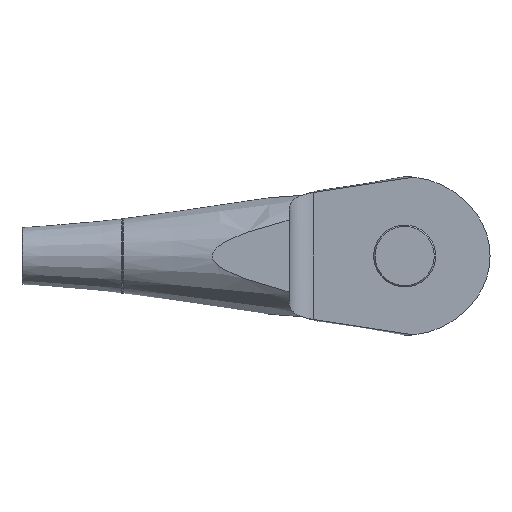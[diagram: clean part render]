
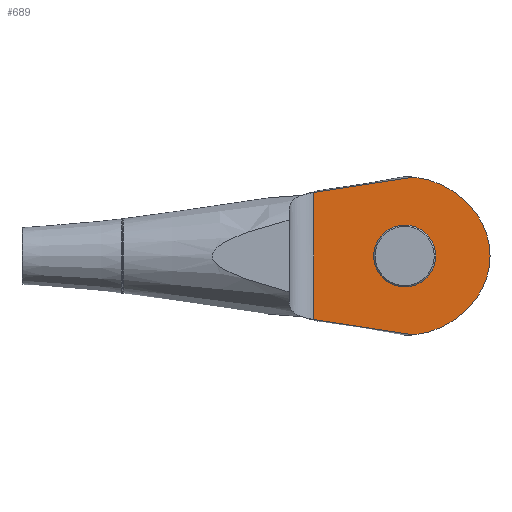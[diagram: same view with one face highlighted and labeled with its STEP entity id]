
A CAD part, front view. The second image highlights one B-rep face of the part: STEP entity #689.
In plain terms, the highlighted planar face has unit normal (0, -1, 0).
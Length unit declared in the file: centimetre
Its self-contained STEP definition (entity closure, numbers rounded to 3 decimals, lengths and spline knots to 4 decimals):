
#23=LINE('',#1227,#43);
#43=VECTOR('',#899,9.2219);
#65=(
BOUNDED_CURVE()
B_SPLINE_CURVE(2,(#1062,#1063,#1064),.UNSPECIFIED.,.F.,.F.)
B_SPLINE_CURVE_WITH_KNOTS((3,3),(0.,7.9073),.UNSPECIFIED.)
CURVE()
GEOMETRIC_REPRESENTATION_ITEM()
RATIONAL_B_SPLINE_CURVE((1.,1.009,1.007))
REPRESENTATION_ITEM('')
);
#69=(
BOUNDED_CURVE()
B_SPLINE_CURVE(2,(#1172,#1173,#1174),.UNSPECIFIED.,.F.,.F.)
B_SPLINE_CURVE_WITH_KNOTS((3,3),(5.0421,12.9494),
 .UNSPECIFIED.)
CURVE()
GEOMETRIC_REPRESENTATION_ITEM()
RATIONAL_B_SPLINE_CURVE((1.007,1.009,1.))
REPRESENTATION_ITEM('')
);
#99=PLANE('',#762);
#123=FACE_BOUND('',#220,.T.);
#160=FACE_OUTER_BOUND('',#219,.T.);
#219=EDGE_LOOP('',(#519,#520,#521,#522,#523,#524));
#220=EDGE_LOOP('',(#525));
#282=CIRCLE('',#751,1.95);
#283=CIRCLE('',#753,6.4052);
#285=CIRCLE('',#756,5.3);
#287=CIRCLE('',#759,6.4052);
#319=VERTEX_POINT('',#1042);
#320=VERTEX_POINT('',#1061);
#331=VERTEX_POINT('',#1158);
#332=VERTEX_POINT('',#1171);
#335=VERTEX_POINT('',#1207);
#336=VERTEX_POINT('',#1210);
#338=VERTEX_POINT('',#1216);
#382=EDGE_CURVE('',#319,#320,#65,.T.);
#394=EDGE_CURVE('',#331,#332,#69,.T.);
#402=EDGE_CURVE('',#335,#335,#282,.T.);
#403=EDGE_CURVE('',#336,#320,#283,.T.);
#406=EDGE_CURVE('',#338,#336,#285,.T.);
#409=EDGE_CURVE('',#331,#338,#287,.T.);
#412=EDGE_CURVE('',#319,#332,#23,.T.);
#519=ORIENTED_EDGE('',*,*,#403,.T.);
#520=ORIENTED_EDGE('',*,*,#382,.F.);
#521=ORIENTED_EDGE('',*,*,#412,.T.);
#522=ORIENTED_EDGE('',*,*,#394,.F.);
#523=ORIENTED_EDGE('',*,*,#409,.T.);
#524=ORIENTED_EDGE('',*,*,#406,.T.);
#525=ORIENTED_EDGE('',*,*,#402,.T.);
#689=ADVANCED_FACE('',(#160,#123),#99,.F.);
#751=AXIS2_PLACEMENT_3D('',#1208,#872,#873);
#753=AXIS2_PLACEMENT_3D('',#1211,#876,#877);
#756=AXIS2_PLACEMENT_3D('',#1217,#883,#884);
#759=AXIS2_PLACEMENT_3D('',#1222,#890,#891);
#762=AXIS2_PLACEMENT_3D('',#1226,#897,#898);
#872=DIRECTION('center_axis',(0.,1.,0.));
#873=DIRECTION('ref_axis',(-1.,0.,0.));
#876=DIRECTION('center_axis',(0.,-1.,0.));
#877=DIRECTION('ref_axis',(-0.814,0.,-0.58));
#883=DIRECTION('center_axis',(0.,-1.,0.));
#884=DIRECTION('ref_axis',(-0.814,0.,0.58));
#890=DIRECTION('center_axis',(0.,-1.,0.));
#891=DIRECTION('ref_axis',(0.,0.,
1.));
#897=DIRECTION('center_axis',(0.,1.,0.));
#898=DIRECTION('ref_axis',(-1.,0.,0.));
#899=DIRECTION('',(0.,0.,-1.));
#1042=CARTESIAN_POINT('',(-6.6,-1.25,4.6109));
#1061=CARTESIAN_POINT('',(0.6681,-1.25,5.7288));
#1062=CARTESIAN_POINT('Ctrl Pts',(-6.6,-1.25,4.6109));
#1063=CARTESIAN_POINT('Ctrl Pts',(-3.3588,-1.25,5.1128));
#1064=CARTESIAN_POINT('Ctrl Pts',(0.6681,-1.25,5.7288));
#1158=CARTESIAN_POINT('',(0.6681,-1.25,-5.7288));
#1171=CARTESIAN_POINT('',(-6.6,-1.25,-4.6109));
#1172=CARTESIAN_POINT('Ctrl Pts',(0.6681,-1.25,-5.7288));
#1173=CARTESIAN_POINT('Ctrl Pts',(-3.3588,-1.25,-5.1128));
#1174=CARTESIAN_POINT('Ctrl Pts',(-6.6,-1.25,-4.6109));
#1207=CARTESIAN_POINT('',(1.95,-1.25,0.));
#1208=CARTESIAN_POINT('Origin',(0.,-1.25,0.));
#1210=CARTESIAN_POINT('',(5.216,-1.25,3.0761));
#1211=CARTESIAN_POINT('Origin',(0.,-1.25,-0.6415));
#1216=CARTESIAN_POINT('',(5.216,-1.25,-3.0761));
#1217=CARTESIAN_POINT('Origin',(0.9,-1.25,0.));
#1222=CARTESIAN_POINT('Origin',(0.,-1.25,0.6415));
#1226=CARTESIAN_POINT('Origin',(6.2,-1.25,0.));
#1227=CARTESIAN_POINT('',(-6.6,-1.25,0.));
